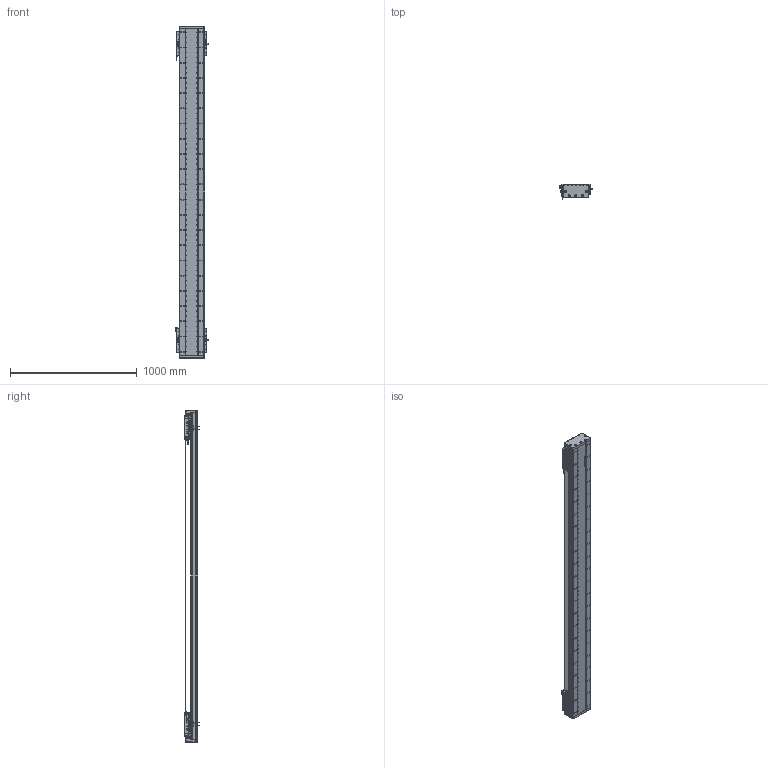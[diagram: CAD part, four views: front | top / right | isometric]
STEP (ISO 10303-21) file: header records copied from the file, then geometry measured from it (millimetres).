
FILE_DESCRIPTION (( 'STEP AP203' ), '1' );
FILE_NAME ('DA-C195-2-C2-T2120-C010-0.2 眻盄萇儂.STEP', '2025-08-14T02:09:14', ( '' ), ( '' ), 'SwSTEP 2.0', 'SolidWorks 2019', '' );
FILE_SCHEMA (( 'CONFIG_CONTROL_DESIGN' ));
Length unit declared in the file: millimetre
Products named in the file (19): CU195-C2賑輸-俋楷-1; 葩璃 DA95-GT-T-00-1; DA195詩湍嶺輸-1; DA195詩湍郪璃-1; LMT黍杅芛-1; MS200 棠掑喜S315-T1740-1; DA95-HXJ-00 遣喳砎蝶-1; DA-C195-GD-DB-H-00 傷啣-1; DA195詩湍裔啣-1; PM-Y65嫖萇羲壽郪璃-1; DA165-GYP-00 光电感应片(默认)-1; DA195詩湍菜輸-1; IU-CU195-L-00 菁釱(L2580); DKW-KGZ-ZJ-00 中间光电开关支架-1; PM-T45ㄗ侂狟ㄘ-1; DKW168-HXJ-ZJ-00 笢潔滅袉砎蝶-1; DA-C195-2-C2-T2120-C010-0.2 眻盄萇儂; DKW-GYP-ZJ-00 笢潔嫖萇覜茼え-1; IU-CU195-L 菁釱絳寢-1
Assembly tree (37 placements, depth 3):
  DA-C195-2-C2-T2120-C010-0.2 眻盄萇儂
    DA195詩湍郪璃-1
      DA195詩湍菜輸-1  x2
      DA195詩湍裔啣-1
      DA195詩湍嶺輸-1  x2
      DA95-HXJ-00 遣喳砎蝶-1  x8
      DA-C195-GD-DB-H-00 傷啣-1  x2
    IU-CU195-L 菁釱絳寢-1
      IU-CU195-L-00 菁釱(L2580)
      葩璃 DA95-GT-T-00-1  x4
    LMT黍杅芛-1  x2
    MS200 棠掑喜S315-T1740-1
    PM-T45ㄗ侂狟ㄘ-1  x4
    DA165-GYP-00 光电感应片(默认)-1  x2
    PM-Y65嫖萇羲壽郪璃-1
    DKW168-HXJ-ZJ-00 笢潔滅袉砎蝶-1
    DKW-GYP-ZJ-00 笢潔嫖萇覜茼え-1
    DKW-KGZ-ZJ-00 中间光电开关支架-1
    CU195-C2賑輸-俋楷-1  x2
Bounding box: 258.2 x 115.45 x 2620 mm (x, y, z)
Volume: 16257471.4 mm3; surface area: 4720106.9 mm2
Topology: 114 solids, 242 shells, 7017 faces, 18623 edges, 11585 vertices
Faces by surface type: cylinder 3308, plane 2625, cone 916, torus 88, sphere 72, bspline 8
Entity records: 151511 total; most frequent: CARTESIAN_POINT 40683, ORIENTED_EDGE 23078, DIRECTION 22114, EDGE_CURVE 11539, AXIS2_PLACEMENT_3D 8145, VERTEX_POINT 7472, VECTOR 5824, LINE 5824
